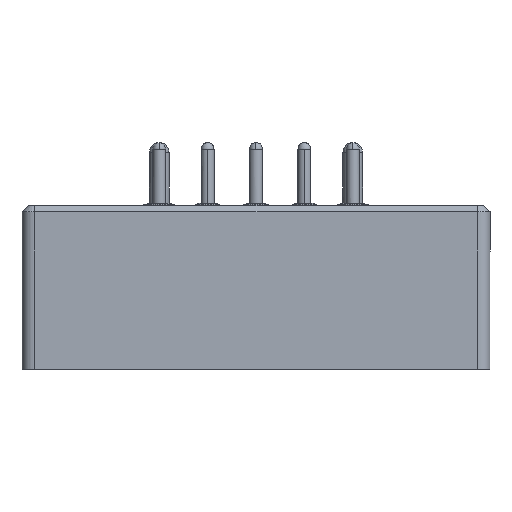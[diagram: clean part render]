
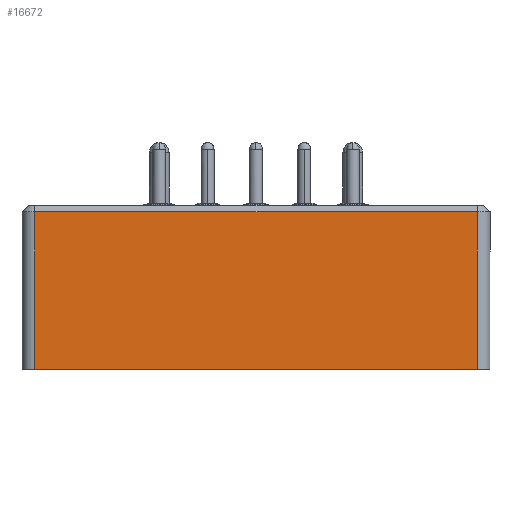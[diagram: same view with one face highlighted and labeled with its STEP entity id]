
A CAD part, left-side view. The second image highlights one B-rep face of the part: STEP entity #16672.
In plain terms, the highlighted planar face has unit normal (-1, 0, 0).
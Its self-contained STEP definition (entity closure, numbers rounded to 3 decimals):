
#221 = CARTESIAN_POINT ( 'NONE',  ( -1.01, -0.015, -5.617 ) ) ;
#627 = B_SPLINE_CURVE_WITH_KNOTS ( 'NONE', 3,
 ( #18206, #4362, #8856, #5794 ),
 .UNSPECIFIED., .F., .F.,
 ( 4, 4 ),
 ( 0., 1. ),
 .UNSPECIFIED. ) ;
#1183 = CARTESIAN_POINT ( 'NONE',  ( -1.01, 34.815, 2.65 ) ) ;
#1648 = CARTESIAN_POINT ( 'NONE',  ( -1.01, -0.015, -9.75 ) ) ;
#1748 = CARTESIAN_POINT ( 'NONE',  ( -1.01, -0.015, 2.65 ) ) ;
#3558 = CARTESIAN_POINT ( 'NONE',  ( -1.01, 11.595, -9.75 ) ) ;
#3653 = CARTESIAN_POINT ( 'NONE',  ( -1.01, -0.015, -9.75 ) ) ;
#3698 = ORIENTED_EDGE ( 'NONE', *, *, #11515, .F. ) ;
#3779 = CARTESIAN_POINT ( 'NONE',  ( -1.01, 34.815, -9.75 ) ) ;
#4362 = CARTESIAN_POINT ( 'NONE',  ( -1.01, 34.815, -5.617 ) ) ;
#4408 = VERTEX_POINT ( 'NONE', #17243 ) ;
#5214 = CARTESIAN_POINT ( 'NONE',  ( -1.01, 11.595, 2.65 ) ) ;
#5315 = EDGE_LOOP ( 'NONE', ( #3698, #6826, #9132, #8552 ) ) ;
#5794 = CARTESIAN_POINT ( 'NONE',  ( -1.01, 34.815, 2.65 ) ) ;
#6016 = VERTEX_POINT ( 'NONE', #9295 ) ;
#6826 = ORIENTED_EDGE ( 'NONE', *, *, #15246, .F. ) ;
#7600 = DIRECTION ( 'NONE',  ( 0., 1., 0. ) ) ;
#7913 = EDGE_CURVE ( 'NONE', #12038, #14547, #627, .T. ) ;
#8552 = ORIENTED_EDGE ( 'NONE', *, *, #7913, .F. ) ;
#8856 = CARTESIAN_POINT ( 'NONE',  ( -1.01, 34.815, -1.483 ) ) ;
#9132 = ORIENTED_EDGE ( 'NONE', *, *, #11222, .F. ) ;
#9295 = CARTESIAN_POINT ( 'NONE',  ( -1.01, -0.015, 2.65 ) ) ;
#9877 = CARTESIAN_POINT ( 'NONE',  ( -1.01, 34.815, -9.75 ) ) ;
#10376 = CARTESIAN_POINT ( 'NONE',  ( -1.01, 17.4, 3. ) ) ;
#10678 = FACE_OUTER_BOUND ( 'NONE', #5315, .T. ) ;
#11020 = B_SPLINE_CURVE_WITH_KNOTS ( 'NONE', 3,
 ( #11238, #17508, #5214, #15860 ),
 .UNSPECIFIED., .F., .F.,
 ( 4, 4 ),
 ( 0., 1. ),
 .UNSPECIFIED. ) ;
#11222 = EDGE_CURVE ( 'NONE', #14547, #6016, #11020, .T. ) ;
#11238 = CARTESIAN_POINT ( 'NONE',  ( -1.01, 34.815, 2.65 ) ) ;
#11515 = EDGE_CURVE ( 'NONE', #4408, #12038, #13651, .T. ) ;
#12002 = PLANE ( 'NONE',  #17765 ) ;
#12038 = VERTEX_POINT ( 'NONE', #3779 ) ;
#13109 = B_SPLINE_CURVE_WITH_KNOTS ( 'NONE', 3,
 ( #1748, #18740, #221, #1648 ),
 .UNSPECIFIED., .F., .F.,
 ( 4, 4 ),
 ( 0., 1. ),
 .UNSPECIFIED. ) ;
#13651 = B_SPLINE_CURVE_WITH_KNOTS ( 'NONE', 3,
 ( #3653, #3558, #18920, #9877 ),
 .UNSPECIFIED., .F., .F.,
 ( 4, 4 ),
 ( 0., 1. ),
 .UNSPECIFIED. ) ;
#14547 = VERTEX_POINT ( 'NONE', #1183 ) ;
#15246 = EDGE_CURVE ( 'NONE', #6016, #4408, #13109, .T. ) ;
#15860 = CARTESIAN_POINT ( 'NONE',  ( -1.01, -0.015, 2.65 ) ) ;
#16672 = ADVANCED_FACE ( 'NONE', ( #10678 ), #12002, .F. ) ;
#16945 = DIRECTION ( 'NONE',  ( 1., 0., 0. ) ) ;
#17243 = CARTESIAN_POINT ( 'NONE',  ( -1.01, -0.015, -9.75 ) ) ;
#17508 = CARTESIAN_POINT ( 'NONE',  ( -1.01, 23.205, 2.65 ) ) ;
#17765 = AXIS2_PLACEMENT_3D ( 'NONE', #10376, #16945, #7600 ) ;
#18206 = CARTESIAN_POINT ( 'NONE',  ( -1.01, 34.815, -9.75 ) ) ;
#18740 = CARTESIAN_POINT ( 'NONE',  ( -1.01, -0.015, -1.483 ) ) ;
#18920 = CARTESIAN_POINT ( 'NONE',  ( -1.01, 23.205, -9.75 ) ) ;
